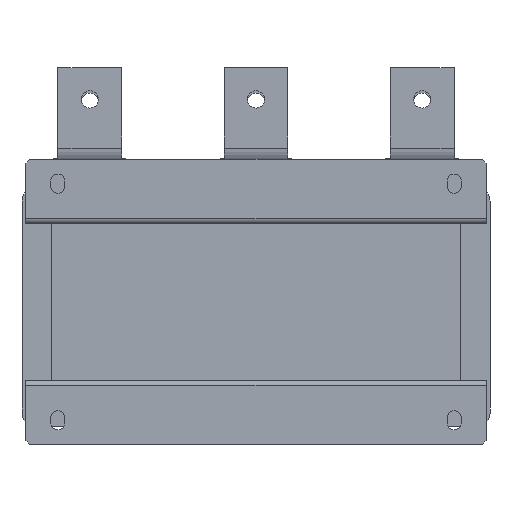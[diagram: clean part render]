
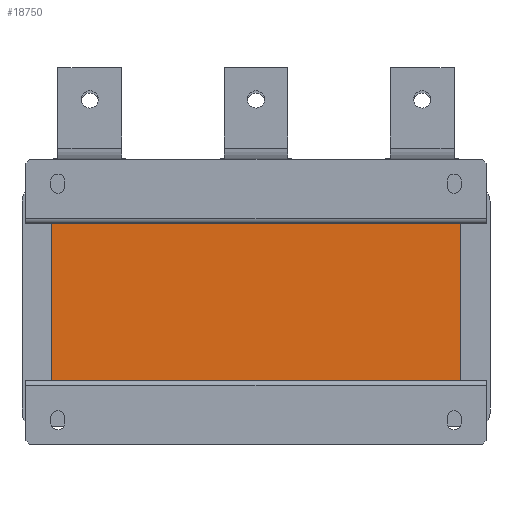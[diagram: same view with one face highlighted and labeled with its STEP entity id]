
A CAD part, front view. The second image highlights one B-rep face of the part: STEP entity #18750.
In plain terms, the highlighted planar face has unit normal (0, -1, 0).
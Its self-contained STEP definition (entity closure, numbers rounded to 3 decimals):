
#1684=LINE('',#30274,#3390);
#1752=LINE('',#30445,#3458);
#1872=LINE('',#30731,#3578);
#1877=LINE('',#30741,#3583);
#3390=VECTOR('',#24131,10.);
#3458=VECTOR('',#24315,10.);
#3578=VECTOR('',#24597,10.);
#3583=VECTOR('',#24612,10.);
#4539=PLANE('',#20166);
#5839=FACE_OUTER_BOUND('',#7124,.T.);
#7124=EDGE_LOOP('',(#16445,#16446,#16447,#16448));
#9132=VERTEX_POINT('',#30267);
#9134=VERTEX_POINT('',#30272);
#9177=VERTEX_POINT('',#30438);
#9179=VERTEX_POINT('',#30443);
#11437=EDGE_CURVE('',#9134,#9132,#1684,.T.);
#11522=EDGE_CURVE('',#9179,#9177,#1752,.T.);
#11668=EDGE_CURVE('',#9134,#9177,#1872,.T.);
#11673=EDGE_CURVE('',#9179,#9132,#1877,.T.);
#16445=ORIENTED_EDGE('',*,*,#11668,.T.);
#16446=ORIENTED_EDGE('',*,*,#11522,.F.);
#16447=ORIENTED_EDGE('',*,*,#11673,.T.);
#16448=ORIENTED_EDGE('',*,*,#11437,.F.);
#18750=ADVANCED_FACE('',(#5839),#4539,.T.);
#20166=AXIS2_PLACEMENT_3D('',#30755,#24636,#24637);
#24131=DIRECTION('',(-1.,0.,0.));
#24315=DIRECTION('',(1.,0.,0.));
#24597=DIRECTION('',(0.,0.,1.));
#24612=DIRECTION('',(0.,0.,-1.));
#24636=DIRECTION('center_axis',(0.,-1.,0.));
#24637=DIRECTION('ref_axis',(1.,0.,0.));
#30267=CARTESIAN_POINT('',(-160.,-204.,-61.5));
#30272=CARTESIAN_POINT('',(160.,-204.,-61.5));
#30274=CARTESIAN_POINT('',(160.,-204.,-61.5));
#30438=CARTESIAN_POINT('',(160.,-204.,61.5));
#30443=CARTESIAN_POINT('',(-160.,-204.,61.5));
#30445=CARTESIAN_POINT('',(160.,-204.,61.5));
#30731=CARTESIAN_POINT('',(160.,-204.,0.));
#30741=CARTESIAN_POINT('',(-160.,-204.,0.));
#30755=CARTESIAN_POINT('Origin',(-160.,-204.,0.));
